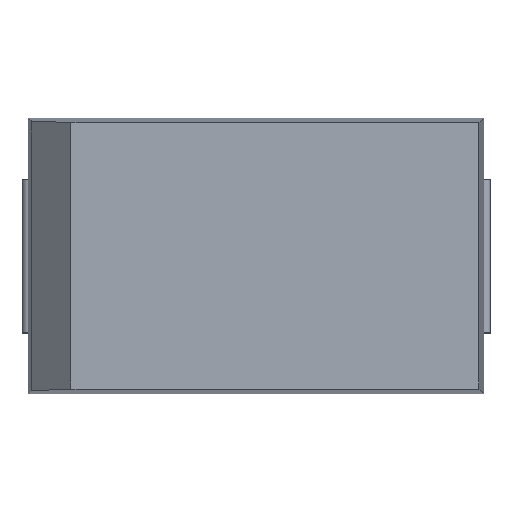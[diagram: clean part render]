
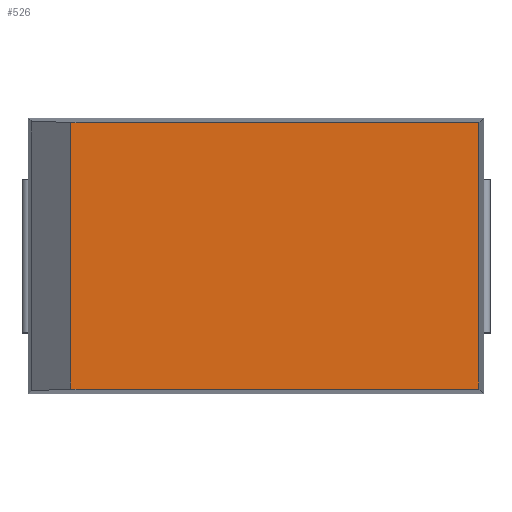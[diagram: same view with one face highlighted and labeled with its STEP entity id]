
A CAD part, top view. The second image highlights one B-rep face of the part: STEP entity #526.
In plain terms, the highlighted planar face has unit normal (0, 0, 1).
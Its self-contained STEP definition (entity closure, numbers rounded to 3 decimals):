
#63 = PLANE('',#64);
#64 = AXIS2_PLACEMENT_3D('',#65,#66,#67);
#65 = CARTESIAN_POINT('',(-3.55,-2.114,2.208));
#66 = DIRECTION('',(0.,0.999,-0.046));
#67 = DIRECTION('',(-1.,-0.,-0.));
#119 = PLANE('',#120);
#120 = AXIS2_PLACEMENT_3D('',#121,#122,#123);
#121 = CARTESIAN_POINT('',(-3.55,2.114,2.208));
#122 = DIRECTION('',(0.,0.999,0.046));
#123 = DIRECTION('',(-1.,0.,0.));
#145 = PLANE('',#146);
#146 = AXIS2_PLACEMENT_3D('',#147,#148,#149);
#147 = CARTESIAN_POINT('',(-3.195,-2.078,2.704));
#148 = DIRECTION('',(0.691,0.,-0.723)
  );
#149 = DIRECTION('',(0.,1.,0.));
#190 = VERTEX_POINT('',#191);
#191 = CARTESIAN_POINT('',(3.478,-2.078,3.));
#205 = PLANE('',#206);
#206 = AXIS2_PLACEMENT_3D('',#207,#208,#209);
#207 = CARTESIAN_POINT('',(3.514,-2.15,2.208));
#208 = DIRECTION('',(0.999,0.,0.046));
#209 = DIRECTION('',(0.,1.,0.));
#217 = EDGE_CURVE('',#218,#190,#220,.T.);
#218 = VERTEX_POINT('',#219);
#219 = CARTESIAN_POINT('',(-2.886,-2.078,3.));
#220 = SURFACE_CURVE('',#221,(#225,#232),.PCURVE_S1.);
#221 = LINE('',#222,#223);
#222 = CARTESIAN_POINT('',(-3.55,-2.078,3.));
#223 = VECTOR('',#224,1.);
#224 = DIRECTION('',(1.,0.,0.));
#225 = PCURVE('',#63,#226);
#226 = DEFINITIONAL_REPRESENTATION('',(#227),#231);
#227 = LINE('',#228,#229);
#228 = CARTESIAN_POINT('',(-0.,0.793));
#229 = VECTOR('',#230,1.);
#230 = DIRECTION('',(-1.,0.));
#231 = ( GEOMETRIC_REPRESENTATION_CONTEXT(2) 
PARAMETRIC_REPRESENTATION_CONTEXT() REPRESENTATION_CONTEXT('2D SPACE',''
  ) );
#232 = PCURVE('',#233,#238);
#233 = PLANE('',#234);
#234 = AXIS2_PLACEMENT_3D('',#235,#236,#237);
#235 = CARTESIAN_POINT('',(-3.55,-2.15,3.));
#236 = DIRECTION('',(0.,0.,1.));
#237 = DIRECTION('',(1.,0.,0.));
#238 = DEFINITIONAL_REPRESENTATION('',(#239),#243);
#239 = LINE('',#240,#241);
#240 = CARTESIAN_POINT('',(0.,0.073));
#241 = VECTOR('',#242,1.);
#242 = DIRECTION('',(1.,0.));
#243 = ( GEOMETRIC_REPRESENTATION_CONTEXT(2) 
PARAMETRIC_REPRESENTATION_CONTEXT() REPRESENTATION_CONTEXT('2D SPACE',''
  ) );
#272 = VERTEX_POINT('',#273);
#273 = CARTESIAN_POINT('',(-2.886,2.078,3.));
#294 = EDGE_CURVE('',#218,#272,#295,.T.);
#295 = SURFACE_CURVE('',#296,(#300,#307),.PCURVE_S1.);
#296 = LINE('',#297,#298);
#297 = CARTESIAN_POINT('',(-2.886,-2.078,3.));
#298 = VECTOR('',#299,1.);
#299 = DIRECTION('',(0.,1.,0.));
#300 = PCURVE('',#145,#301);
#301 = DEFINITIONAL_REPRESENTATION('',(#302),#306);
#302 = LINE('',#303,#304);
#303 = CARTESIAN_POINT('',(0.,0.428));
#304 = VECTOR('',#305,1.);
#305 = DIRECTION('',(1.,0.));
#306 = ( GEOMETRIC_REPRESENTATION_CONTEXT(2) 
PARAMETRIC_REPRESENTATION_CONTEXT() REPRESENTATION_CONTEXT('2D SPACE',''
  ) );
#307 = PCURVE('',#233,#308);
#308 = DEFINITIONAL_REPRESENTATION('',(#309),#313);
#309 = LINE('',#310,#311);
#310 = CARTESIAN_POINT('',(0.664,0.073));
#311 = VECTOR('',#312,1.);
#312 = DIRECTION('',(0.,1.));
#313 = ( GEOMETRIC_REPRESENTATION_CONTEXT(2) 
PARAMETRIC_REPRESENTATION_CONTEXT() REPRESENTATION_CONTEXT('2D SPACE',''
  ) );
#424 = VERTEX_POINT('',#425);
#425 = CARTESIAN_POINT('',(3.478,2.078,3.));
#446 = EDGE_CURVE('',#272,#424,#447,.T.);
#447 = SURFACE_CURVE('',#448,(#452,#459),.PCURVE_S1.);
#448 = LINE('',#449,#450);
#449 = CARTESIAN_POINT('',(-3.55,2.078,3.));
#450 = VECTOR('',#451,1.);
#451 = DIRECTION('',(1.,0.,0.));
#452 = PCURVE('',#119,#453);
#453 = DEFINITIONAL_REPRESENTATION('',(#454),#458);
#454 = LINE('',#455,#456);
#455 = CARTESIAN_POINT('',(-0.,0.793));
#456 = VECTOR('',#457,1.);
#457 = DIRECTION('',(-1.,0.));
#458 = ( GEOMETRIC_REPRESENTATION_CONTEXT(2) 
PARAMETRIC_REPRESENTATION_CONTEXT() REPRESENTATION_CONTEXT('2D SPACE',''
  ) );
#459 = PCURVE('',#233,#460);
#460 = DEFINITIONAL_REPRESENTATION('',(#461),#465);
#461 = LINE('',#462,#463);
#462 = CARTESIAN_POINT('',(0.,4.228));
#463 = VECTOR('',#464,1.);
#464 = DIRECTION('',(1.,0.));
#465 = ( GEOMETRIC_REPRESENTATION_CONTEXT(2) 
PARAMETRIC_REPRESENTATION_CONTEXT() REPRESENTATION_CONTEXT('2D SPACE',''
  ) );
#526 = ADVANCED_FACE('',(#527),#233,.T.);
#527 = FACE_BOUND('',#528,.T.);
#528 = EDGE_LOOP('',(#529,#530,#551,#552));
#529 = ORIENTED_EDGE('',*,*,#217,.T.);
#530 = ORIENTED_EDGE('',*,*,#531,.T.);
#531 = EDGE_CURVE('',#190,#424,#532,.T.);
#532 = SURFACE_CURVE('',#533,(#537,#544),.PCURVE_S1.);
#533 = LINE('',#534,#535);
#534 = CARTESIAN_POINT('',(3.478,-2.15,3.));
#535 = VECTOR('',#536,1.);
#536 = DIRECTION('',(0.,1.,0.));
#537 = PCURVE('',#233,#538);
#538 = DEFINITIONAL_REPRESENTATION('',(#539),#543);
#539 = LINE('',#540,#541);
#540 = CARTESIAN_POINT('',(7.028,0.));
#541 = VECTOR('',#542,1.);
#542 = DIRECTION('',(0.,1.));
#543 = ( GEOMETRIC_REPRESENTATION_CONTEXT(2) 
PARAMETRIC_REPRESENTATION_CONTEXT() REPRESENTATION_CONTEXT('2D SPACE',''
  ) );
#544 = PCURVE('',#205,#545);
#545 = DEFINITIONAL_REPRESENTATION('',(#546),#550);
#546 = LINE('',#547,#548);
#547 = CARTESIAN_POINT('',(0.,0.793));
#548 = VECTOR('',#549,1.);
#549 = DIRECTION('',(1.,0.));
#550 = ( GEOMETRIC_REPRESENTATION_CONTEXT(2) 
PARAMETRIC_REPRESENTATION_CONTEXT() REPRESENTATION_CONTEXT('2D SPACE',''
  ) );
#551 = ORIENTED_EDGE('',*,*,#446,.F.);
#552 = ORIENTED_EDGE('',*,*,#294,.F.);
